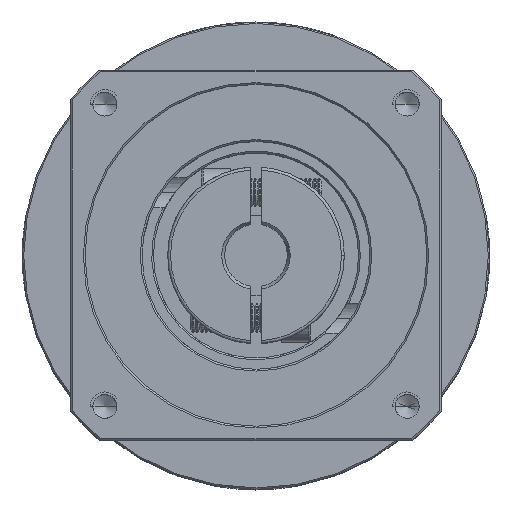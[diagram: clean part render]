
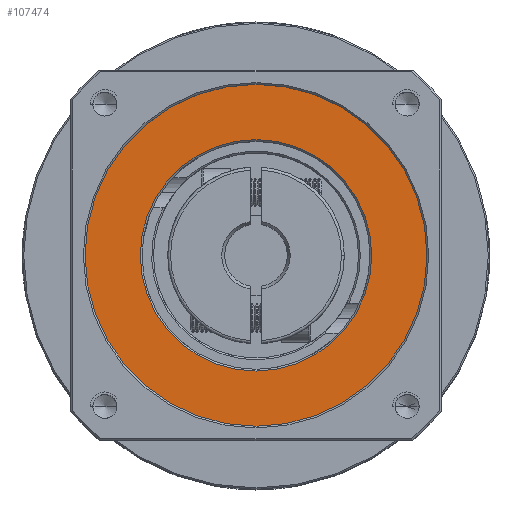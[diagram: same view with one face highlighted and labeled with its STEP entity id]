
A CAD part, top view. The second image highlights one B-rep face of the part: STEP entity #107474.
In plain terms, the highlighted planar face has unit normal (0, 0, 1).
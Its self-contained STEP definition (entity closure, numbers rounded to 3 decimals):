
#237 = FACE_OUTER_BOUND ( 'NONE', #90754, .T. ) ;
#3806 = VERTEX_POINT ( 'NONE', #111791 ) ;
#4678 = EDGE_CURVE ( 'NONE', #125819, #34824, #19647, .T. ) ;
#5111 = DIRECTION ( 'NONE',  ( 1., 0., 0. ) ) ;
#6693 = AXIS2_PLACEMENT_3D ( 'NONE', #82162, #21608, #92305 ) ;
#9844 = CARTESIAN_POINT ( 'NONE',  ( -65.841, 24.936, 5.575 ) ) ;
#12227 = AXIS2_PLACEMENT_3D ( 'NONE', #9844, #80617, #20073 ) ;
#14915 = CARTESIAN_POINT ( 'NONE',  ( -65.841, 24.936, 5.575 ) ) ;
#19647 = CIRCLE ( 'NONE', #101096, 20.3 ) ;
#20073 = DIRECTION ( 'NONE',  ( 1., 0., 0. ) ) ;
#21608 = DIRECTION ( 'NONE',  ( 0., 0., -1. ) ) ;
#25061 = DIRECTION ( 'NONE',  ( 1., 0., 0. ) ) ;
#28998 = CARTESIAN_POINT ( 'NONE',  ( -45.541, 24.936, 5.575 ) ) ;
#34824 = VERTEX_POINT ( 'NONE', #28998 ) ;
#35226 = ORIENTED_EDGE ( 'NONE', *, *, #112363, .T. ) ;
#40177 = CARTESIAN_POINT ( 'NONE',  ( -95.841, 24.936, 5.575 ) ) ;
#46254 = ORIENTED_EDGE ( 'NONE', *, *, #76944, .T. ) ;
#53973 = EDGE_CURVE ( 'NONE', #34824, #125819, #124965, .T. ) ;
#56740 = DIRECTION ( 'NONE',  ( 0., 0., 1. ) ) ;
#62009 = ORIENTED_EDGE ( 'NONE', *, *, #53973, .T. ) ;
#65746 = DIRECTION ( 'NONE',  ( 0., 0., 1. ) ) ;
#72061 = CIRCLE ( 'NONE', #123532, 30. ) ;
#74980 = EDGE_LOOP ( 'NONE', ( #62009, #125211 ) ) ;
#76944 = EDGE_CURVE ( 'NONE', #3806, #82275, #72061, .T. ) ;
#80617 = DIRECTION ( 'NONE',  ( 0., 0., 1. ) ) ;
#82162 = CARTESIAN_POINT ( 'NONE',  ( -65.841, 24.936, 5.575 ) ) ;
#82275 = VERTEX_POINT ( 'NONE', #40177 ) ;
#85629 = PLANE ( 'NONE',  #105569 ) ;
#85671 = DIRECTION ( 'NONE',  ( 0., 0., -1. ) ) ;
#90754 = EDGE_LOOP ( 'NONE', ( #46254, #35226 ) ) ;
#92305 = DIRECTION ( 'NONE',  ( 1., 0., 0. ) ) ;
#98451 = CARTESIAN_POINT ( 'NONE',  ( -86.141, 24.936, 5.575 ) ) ;
#101096 = AXIS2_PLACEMENT_3D ( 'NONE', #14915, #85671, #25061 ) ;
#101451 = FACE_BOUND ( 'NONE', #74980, .T. ) ;
#105569 = AXIS2_PLACEMENT_3D ( 'NONE', #126164, #65746, #5111 ) ;
#107474 = ADVANCED_FACE ( 'NONE', ( #101451, #237 ), #85629, .T. ) ;
#111791 = CARTESIAN_POINT ( 'NONE',  ( -35.841, 24.936, 5.575 ) ) ;
#112363 = EDGE_CURVE ( 'NONE', #82275, #3806, #123285, .T. ) ;
#117270 = CARTESIAN_POINT ( 'NONE',  ( -65.841, 24.936, 5.575 ) ) ;
#123285 = CIRCLE ( 'NONE', #12227, 30. ) ;
#123532 = AXIS2_PLACEMENT_3D ( 'NONE', #117270, #56740, #127344 ) ;
#124965 = CIRCLE ( 'NONE', #6693, 20.3 ) ;
#125211 = ORIENTED_EDGE ( 'NONE', *, *, #4678, .T. ) ;
#125819 = VERTEX_POINT ( 'NONE', #98451 ) ;
#126164 = CARTESIAN_POINT ( 'NONE',  ( -65.841, 24.936, 5.575 ) ) ;
#127344 = DIRECTION ( 'NONE',  ( 1., 0., 0. ) ) ;
